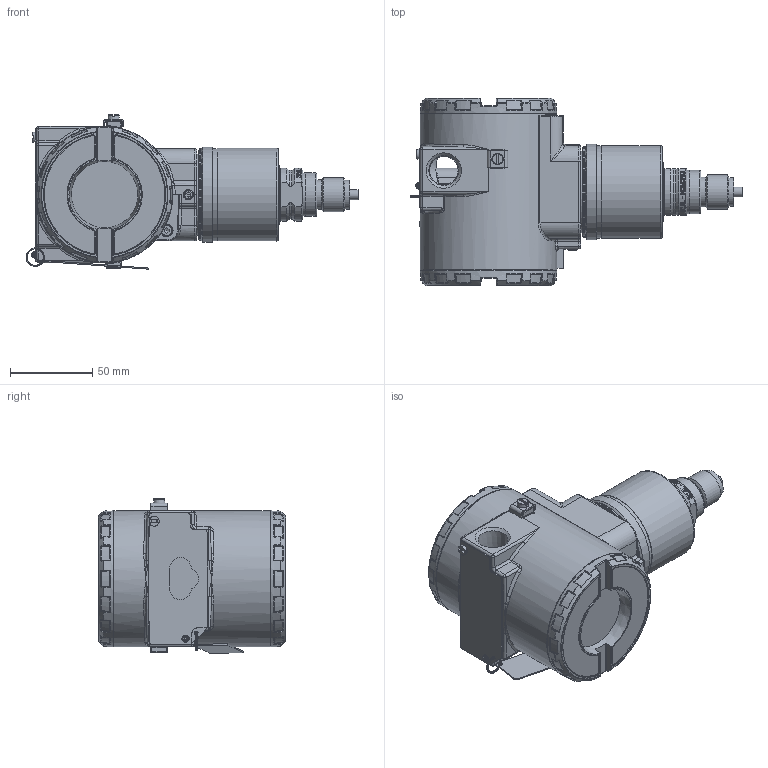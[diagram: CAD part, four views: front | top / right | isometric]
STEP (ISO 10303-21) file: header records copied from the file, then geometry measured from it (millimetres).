
FILE_DESCRIPTION(/* description */ (''),/* implementation_level */ '2;1');
FILE_NAME(/* name */ 'F:\Area\Desenvolvimento_2\Projects\Sensor\projetos\LD29X\3d\dimensionais 3D - clientes\LD29XM2-3 G1-2 B.stp',/* time_stamp */ '2023-01-31T09:35:26-03:00',/* author */ ('inventor02'),/* organization */ (''),/* preprocessor_version */ 'ST-DEVELOPER v17',/* originating_system */ 'Autodesk Inventor 2019',/* authorisation */ '');
FILE_SCHEMA (('CONFIG_CONTROL_DESIGN'));
Products named in the file (27): LD29XM2-3 G1-2 B; SENSOR 29X FX2-3 G1-2 B; 101-B-5895-01 capa fx2-3; 101-C-3677-06 conexao ao processo 1-2NPT; 101-D-1309-04 pescoço LD29x usinado; 101-B-1610-06 conexão G1-2 B EN837-1; carcaça vazia com tampas e plaqueta; carcaça LD inox sem letras; Subconjunto plaqueta 300; Plaqueta transmissor; Parafuso da Plaqueta; Rebite da Plaqueta; 096-A-0169-03; 101-A-0502-01; Chapa aterramento externo; ISO 1207 - M4 x 8; DIN 915 - M6 x 10; ANSI B18.3.1M - M4x0,7 x 8; Subconjunto tampa com visor aluminio; tampa pintada; VIDRO DO VISOR; oring 41x1 vidro tampa; Trava do vidro da tampa com visor; trava do vidro VH256; Subconjunto tampa sem visor-aluminio; tampa cega 300 pintada p0; 00034775-0
Assembly tree (28 placements, depth 4):
  LD29XM2-3 G1-2 B
    SENSOR 29X FX2-3 G1-2 B
      101-B-5895-01 capa fx2-3
      101-C-3677-06 conexao ao processo 1-2NPT
      101-D-1309-04 pescoço LD29x usinado
      101-B-1610-06 conexão G1-2 B EN837-1
    carcaça vazia com tampas e plaqueta
      carcaça LD inox sem letras
      Subconjunto plaqueta 300
        Plaqueta transmissor
        Parafuso da Plaqueta
        Rebite da Plaqueta
        096-A-0169-03
        101-A-0502-01
      Chapa aterramento externo
      ISO 1207 - M4 x 8
      DIN 915 - M6 x 10
      ANSI B18.3.1M - M4x0,7 x 8  x2
      Subconjunto tampa com visor aluminio
        tampa pintada
        VIDRO DO VISOR
        oring 41x1 vidro tampa
        Trava do vidro da tampa com visor
        trava do vidro VH256
        00034775-0
      Subconjunto tampa sem visor-aluminio
        tampa cega 300 pintada p0
        00034775-0
Bounding box: 202.09 x 114 x 93.95 mm (x, y, z)
Volume: 419369.9 mm3; surface area: 183388.6 mm2
Topology: 23 solids, 23 shells, 1926 faces, 4692 edges, 2808 vertices
Faces by surface type: bspline 575, cylinder 432, plane 388, torus 266, cone 160, sphere 105
Full cylindrical faces by diameter (mm): 2 x2, 2.1 x2, 2.459 x5, 2.642 x1, 2.7 x1, 3 x1, 3.242 x4, 3.5 x8, 3.571 x1, 4 x5, 4.3 x1, 4.4 x1, 4.917 x1, 6 x3, 7 x4, 7.087 x2, 7.6 x2, 8 x1, 8.7 x2, 17.475 x2, 17.5 x2, 18 x2, 20.8 x1, 26.5 x2, 28.399 x1, 32.2 x1, 34.15 x1, 35.15 x1, 35.2 x1, 36 x1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
Entity records: 71601 total; most frequent: CARTESIAN_POINT 28107, ORIENTED_EDGE 9156, DIRECTION 8499, EDGE_CURVE 4578, AXIS2_PLACEMENT_3D 3678, VERTEX_POINT 2779, CIRCLE 2161, EDGE_LOOP 2019
